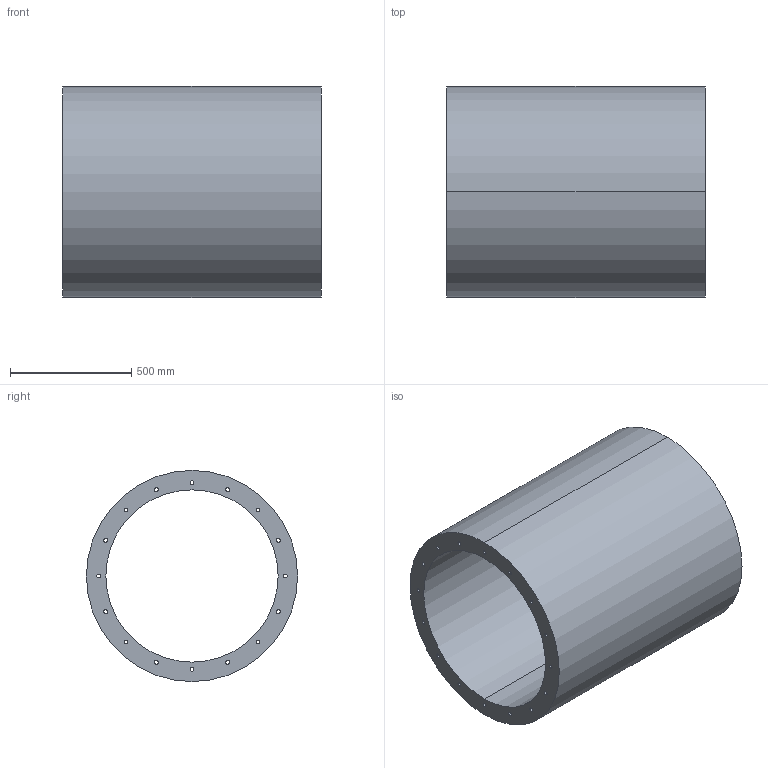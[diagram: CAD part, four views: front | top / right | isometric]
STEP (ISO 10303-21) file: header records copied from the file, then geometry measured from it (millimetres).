
FILE_DESCRIPTION(('STEP AP214'),'1');
FILE_NAME('accessory_5211811700.stp','2017-10-09T11:37:50',('TraceParts'),('TraceParts S.A.'),'Spatial InterOp 3D',' ',' ');
FILE_SCHEMA(('automotive_design'));
Length unit declared in the file: millimetre
Products named in the file (1): accessory_5211811700
Bounding box: 1065 x 870 x 870 mm (x, y, z)
Volume: 208028223 mm3; surface area: 6533545.1 mm2
Topology: 1 solids, 1 shells, 38 faces, 108 edges, 72 vertices
Faces by surface type: cylinder 36, plane 2
Entity records: 1672 total; most frequent: DIRECTION 258, CARTESIAN_POINT 219, ORIENTED_EDGE 216, AXIS2_PLACEMENT_3D 111, EDGE_CURVE 108, EDGE_LOOP 72, VERTEX_POINT 72, CIRCLE 72
